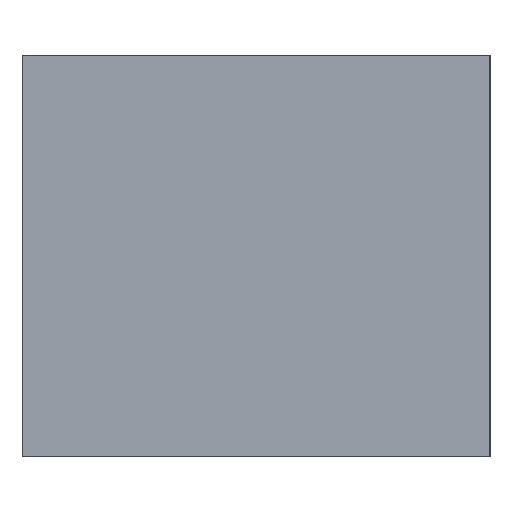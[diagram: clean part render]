
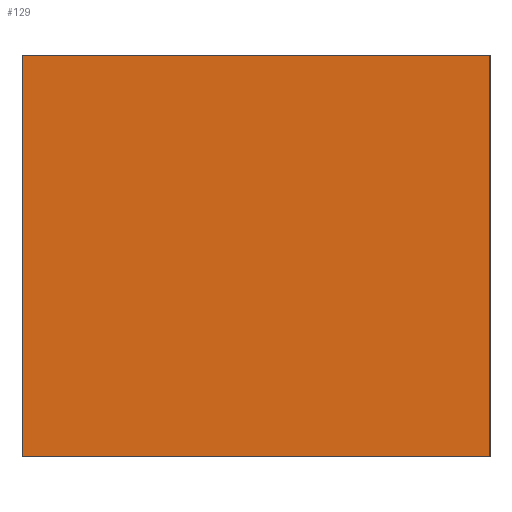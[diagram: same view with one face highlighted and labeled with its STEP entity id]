
A CAD part, left-side view. The second image highlights one B-rep face of the part: STEP entity #129.
In plain terms, the highlighted planar face has unit normal (-1, 0, 0).
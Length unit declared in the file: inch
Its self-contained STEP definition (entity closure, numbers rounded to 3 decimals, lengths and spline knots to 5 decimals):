
#1 = ORIENTED_EDGE ( 'NONE', *, *, #11, .T. ) ;
#7 = LINE ( 'NONE', #300, #28 ) ;
#9 = CARTESIAN_POINT ( 'NONE',  ( -6.29921, 0., 2.59843 ) ) ;
#11 = EDGE_CURVE ( 'NONE', #234, #178, #7, .T. ) ;
#20 = VERTEX_POINT ( 'NONE', #33 ) ;
#28 = VECTOR ( 'NONE', #54, 39.37008 ) ;
#33 = CARTESIAN_POINT ( 'NONE',  ( -6.29921, 6.06299, -2.59843 ) ) ;
#35 = DIRECTION ( 'NONE',  ( 0., 1., 0. ) ) ;
#54 = DIRECTION ( 'NONE',  ( 0., 0., 1. ) ) ;
#57 = CARTESIAN_POINT ( 'NONE',  ( -6.29921, 6.06299, 2.59843 ) ) ;
#74 = VECTOR ( 'NONE', #209, 39.37008 ) ;
#85 = VECTOR ( 'NONE', #35, 39.37008 ) ;
#107 = CARTESIAN_POINT ( 'NONE',  ( -6.29921, 0., -2.59843 ) ) ;
#115 = EDGE_CURVE ( 'NONE', #188, #20, #272, .T. ) ;
#120 = EDGE_CURVE ( 'NONE', #178, #188, #204, .T. ) ;
#129 = ADVANCED_FACE ( 'NONE', ( #144 ), #283, .T. ) ;
#130 = EDGE_CURVE ( 'NONE', #234, #20, #282, .T. ) ;
#144 = FACE_OUTER_BOUND ( 'NONE', #223, .T. ) ;
#178 = VERTEX_POINT ( 'NONE', #9 ) ;
#183 = DIRECTION ( 'NONE',  ( 0., 0., 1. ) ) ;
#184 = VECTOR ( 'NONE', #307, 39.37008 ) ;
#188 = VERTEX_POINT ( 'NONE', #57 ) ;
#197 = AXIS2_PLACEMENT_3D ( 'NONE', #236, #213, #183 ) ;
#199 = ORIENTED_EDGE ( 'NONE', *, *, #130, .F. ) ;
#204 = LINE ( 'NONE', #207, #85 ) ;
#207 = CARTESIAN_POINT ( 'NONE',  ( -6.29921, 0., 2.59843 ) ) ;
#209 = DIRECTION ( 'NONE',  ( 0., 0., -1. ) ) ;
#213 = DIRECTION ( 'NONE',  ( -1., 0., 0. ) ) ;
#219 = CARTESIAN_POINT ( 'NONE',  ( -6.29921, 0., -2.59843 ) ) ;
#223 = EDGE_LOOP ( 'NONE', ( #1, #305, #238, #199 ) ) ;
#234 = VERTEX_POINT ( 'NONE', #219 ) ;
#236 = CARTESIAN_POINT ( 'NONE',  ( -6.29921, 0., 2.59843 ) ) ;
#238 = ORIENTED_EDGE ( 'NONE', *, *, #115, .T. ) ;
#260 = CARTESIAN_POINT ( 'NONE',  ( -6.29921, 6.06299, 2.59843 ) ) ;
#272 = LINE ( 'NONE', #260, #74 ) ;
#282 = LINE ( 'NONE', #107, #184 ) ;
#283 = PLANE ( 'NONE',  #197 ) ;
#300 = CARTESIAN_POINT ( 'NONE',  ( -6.29921, 0., 2.59843 ) ) ;
#305 = ORIENTED_EDGE ( 'NONE', *, *, #120, .T. ) ;
#307 = DIRECTION ( 'NONE',  ( 0., 1., 0. ) ) ;
